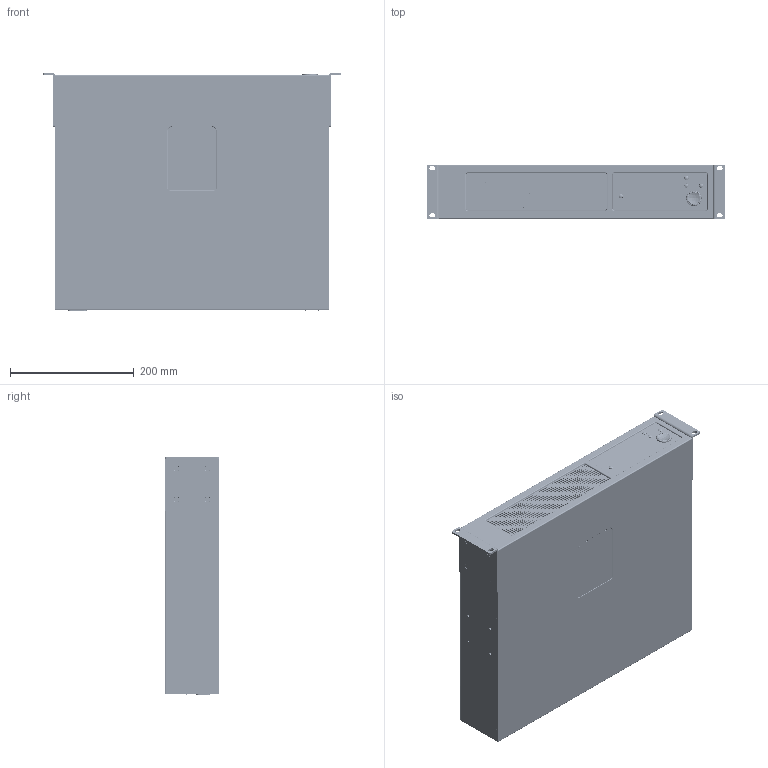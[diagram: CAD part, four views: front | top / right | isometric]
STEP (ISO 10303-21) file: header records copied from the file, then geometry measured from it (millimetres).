
FILE_DESCRIPTION (( 'STEP AP214' ), '1' );
FILE_NAME ('FG-901672-3D (RACK MOUNT) - A.STEP', '2026-03-10T17:23:27', ( '' ), ( '' ), 'SwSTEP 2.0', 'SolidWorks 2023', '' );
FILE_SCHEMA (( 'AUTOMOTIVE_DESIGN' ));
Length unit declared in the file: millimetre
Products named in the file (1): FG-901672-3D (RACK MOUNT) - A
Bounding box: 482.6 x 88 x 385.6 mm (x, y, z)
Volume: 14811761.1 mm3; surface area: 563204.7 mm2
Topology: 3 solids, 3 shells, 7341 faces, 17209 edges, 11219 vertices
Faces by surface type: plane 4815, cylinder 1728, bspline 344, torus 209, cone 183, sphere 62
Entity records: 263728 total; most frequent: CARTESIAN_POINT 44012, DIRECTION 35068, ORIENTED_EDGE 34418, EDGE_CURVE 17209, VECTOR 11934, LINE 11934, AXIS2_PLACEMENT_3D 11567, VERTEX_POINT 11219
